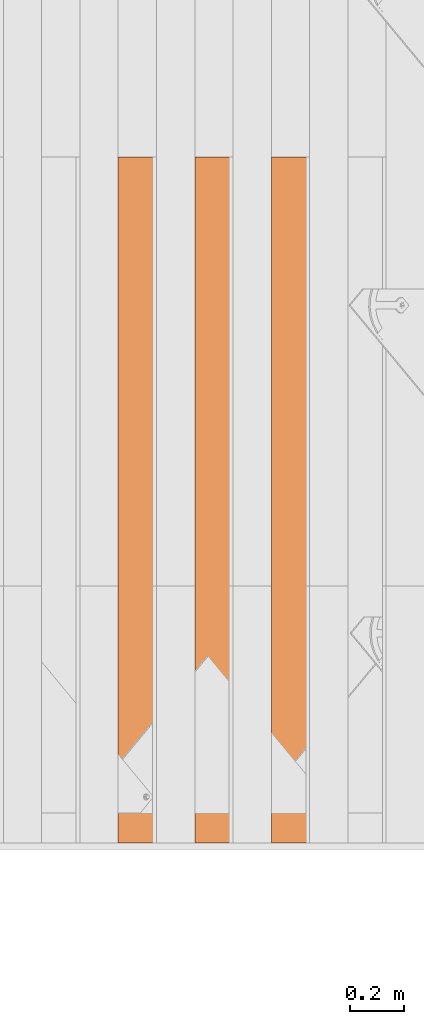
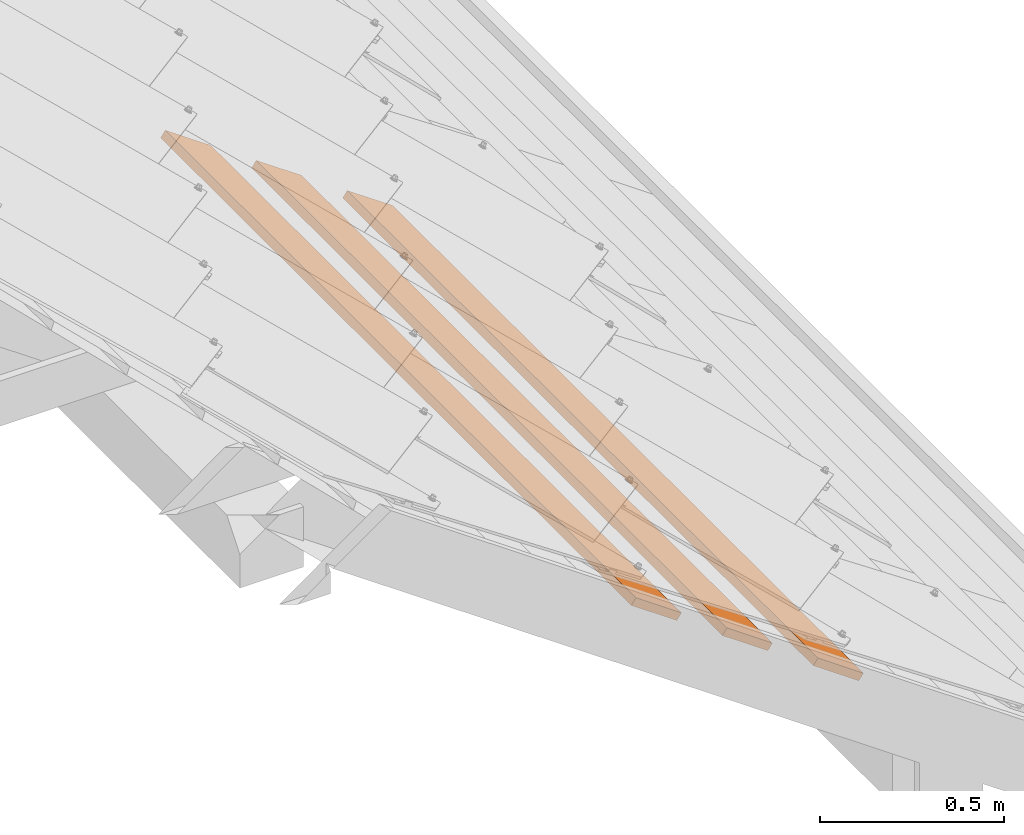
# One storey, part 19 of 151: 3 proxies, 1 element without a shape of its own.
"""IFC2X3 building model written with IfcOpenShell, lengths in millimetres."""

from ifc_helpers import new_model, entity, si_unit, converted_unit, derived_unit, direction, frame, frame_2d, origin, place, context, subcontext, project, spatial, rectangle, extrude, source, transform, mapped, material, type_object, type_shapes, element, aggregate, save


model = new_model("IFC2X3")

# Units and contexts
model_context = context("Model", 3, precision=0.01, world=origin(), true_north=direction((6.12303176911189e-17, 1.0)))
body_context = subcontext(model_context, "Body", "Model", "MODEL_VIEW")
ifc_project = project(units=[si_unit("LENGTHUNIT", "METRE", prefix="MILLI"), si_unit("AREAUNIT", "SQUARE_METRE"), si_unit("VOLUMEUNIT", "CUBIC_METRE"), converted_unit("PLANEANGLEUNIT", "DEGREE", entity("IfcRatioMeasure", 0.0174532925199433), si_unit("PLANEANGLEUNIT", "RADIAN"), dimensions=[0, 0, 0, 0, 0, 0, 0]), si_unit("MASSUNIT", "GRAM", prefix="KILO"), derived_unit("MASSDENSITYUNIT", [(si_unit("MASSUNIT", "GRAM", prefix="KILO"), 1), (si_unit("LENGTHUNIT", "METRE"), -3)]), si_unit("TIMEUNIT", "SECOND"), si_unit("FREQUENCYUNIT", "HERTZ"), si_unit("THERMODYNAMICTEMPERATUREUNIT", "DEGREE_CELSIUS"), derived_unit("THERMALTRANSMITTANCEUNIT", [(si_unit("MASSUNIT", "GRAM", prefix="KILO"), 1), (si_unit("THERMODYNAMICTEMPERATUREUNIT", "KELVIN"), -1), (si_unit("TIMEUNIT", "SECOND"), -3)]), derived_unit("VOLUMETRICFLOWRATEUNIT", [(si_unit("LENGTHUNIT", "METRE"), 3), (si_unit("TIMEUNIT", "SECOND"), -1)]), si_unit("ELECTRICCURRENTUNIT", "AMPERE"), si_unit("ELECTRICVOLTAGEUNIT", "VOLT"), si_unit("POWERUNIT", "WATT"), si_unit("FORCEUNIT", "NEWTON", prefix="KILO"), si_unit("ILLUMINANCEUNIT", "LUX"), si_unit("LUMINOUSFLUXUNIT", "LUMEN"), si_unit("LUMINOUSINTENSITYUNIT", "CANDELA"), derived_unit("USERDEFINED", [(si_unit("MASSUNIT", "GRAM", prefix="KILO"), -1), (si_unit("LENGTHUNIT", "METRE"), -2), (si_unit("TIMEUNIT", "SECOND"), 3), (si_unit("LUMINOUSFLUXUNIT", "LUMEN"), 1)]), derived_unit("LINEARVELOCITYUNIT", [(si_unit("LENGTHUNIT", "METRE"), 1), (si_unit("TIMEUNIT", "SECOND"), -1)]), si_unit("PRESSUREUNIT", "PASCAL"), derived_unit("USERDEFINED", [(si_unit("LENGTHUNIT", "METRE"), -2), (si_unit("MASSUNIT", "GRAM", prefix="KILO"), 1), (si_unit("TIMEUNIT", "SECOND"), -2)])], contexts=[model_context])

# Site, building, storey
site_placement = place(None, origin())
site = spatial("IfcSite", under=ifc_project, at=site_placement, Name="Default", CompositionType="ELEMENT")
building_placement = place(site_placement, origin())
building = spatial("IfcBuilding", under=site, at=building_placement, CompositionType="ELEMENT")
storey_placement = place(building_placement, origin())
storey = spatial("IfcBuildingStorey", under=building, at=storey_placement, Name="Level 1", CompositionType="ELEMENT", Elevation=0.0)

# Assembly, proxies
assembly_placement = place(storey_placement, origin())
assembly = element("IfcElementAssembly", 1, at=assembly_placement, inside=storey, Name="Structural Framing Assembly:Roof Construction Assembly", ObjectType="Structural Framing Assembly:Roof Construction Assembly", AssemblyPlace="NOTDEFINED", PredefinedType="USERDEFINED")
ifc_material = material(Name="Wood - Generic - Wood For Showcase")
building_element_proxy_type_1 = type_object("IfcBuildingElementProxyType", Name="Structural Framing 15", PredefinedType="NOTDEFINED", material=ifc_material)
shared_shape_1 = source(origin(), body_context, "Body", "SweptSolid", [
    extrude(rectangle(XDim=24.9999999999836, YDim=174.344679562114, at=frame_2d((3.73923114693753e-13, 6.3948846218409e-14), x_axis=(1.0, 0.0))), frame((1285.35601305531, 1437.09519417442, 2760.23940055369), z_axis=(0.0, 1.0, 0.0), x_axis=(0.573576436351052, 0.0, 0.819152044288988)), (0.0, 0.0, 1.0), 2558.45560797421),
])
type_shapes(building_element_proxy_type_1, [shared_shape_1])
proxy_1_placement = place(assembly_placement, frame((1914.0802798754, -8140.0, -1300.0)))
proxy_1 = element("IfcBuildingElementProxy", 2, at=proxy_1_placement, type_object=building_element_proxy_type_1, material=ifc_material, Name="Structural Framing 223:Structural Framing 15", ObjectType="Structural Framing 223:Structural Framing 15", context=body_context, shape_type="MappedRepresentation", body=[
    mapped(shared_shape_1, transform((0.0, 0.0, 0.0), scale=1.0)),
])
building_element_proxy_type_2 = type_object("IfcBuildingElementProxyType", Name="Structural Framing 15", PredefinedType="NOTDEFINED", material=ifc_material)
shared_shape_2 = source(origin(), body_context, "Body", "SweptSolid", [
    extrude(rectangle(XDim=24.9999999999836, YDim=174.344679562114, at=frame_2d((3.73923114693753e-13, 6.3948846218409e-14), x_axis=(1.0, 0.0))), frame((1285.35601305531, 1437.09519417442, 2760.23940055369), z_axis=(0.0, 1.0, 0.0), x_axis=(0.573576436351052, 0.0, 0.819152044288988)), (0.0, 0.0, 1.0), 2558.45560797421),
])
type_shapes(building_element_proxy_type_2, [shared_shape_2])
proxy_2_placement = place(assembly_placement, frame((2199.70988122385, -8140.0, -1500.0)))
proxy_2 = element("IfcBuildingElementProxy", 3, at=proxy_2_placement, type_object=building_element_proxy_type_2, material=ifc_material, Name="Structural Framing 233:Structural Framing 15", ObjectType="Structural Framing 233:Structural Framing 15", context=body_context, shape_type="MappedRepresentation", body=[
    mapped(shared_shape_2, transform((0.0, 0.0, 0.0), scale=1.0)),
])
building_element_proxy_type_3 = type_object("IfcBuildingElementProxyType", Name="Structural Framing 15", PredefinedType="NOTDEFINED", material=ifc_material)
shared_shape_3 = source(origin(), body_context, "Body", "SweptSolid", [
    extrude(rectangle(XDim=24.9999999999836, YDim=174.344679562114, at=frame_2d((3.73923114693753e-13, 6.3948846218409e-14), x_axis=(1.0, 0.0))), frame((1285.35601305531, 1437.09519417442, 2760.23940055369), z_axis=(0.0, 1.0, 0.0), x_axis=(0.573576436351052, 0.0, 0.819152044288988)), (0.0, 0.0, 1.0), 2558.45560797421),
])
type_shapes(building_element_proxy_type_3, [shared_shape_3])
proxy_3_placement = place(assembly_placement, frame((2485.3394825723, -8140.0, -1700.0)))
proxy_3 = element("IfcBuildingElementProxy", 4, at=proxy_3_placement, type_object=building_element_proxy_type_3, material=ifc_material, Name="Structural Framing 243:Structural Framing 15", ObjectType="Structural Framing 243:Structural Framing 15", context=body_context, shape_type="MappedRepresentation", body=[
    mapped(shared_shape_3, transform((0.0, 0.0, 0.0), scale=1.0)),
])
aggregate(assembly, [proxy_1, proxy_2, proxy_3])

save(model, "model.ifc")
